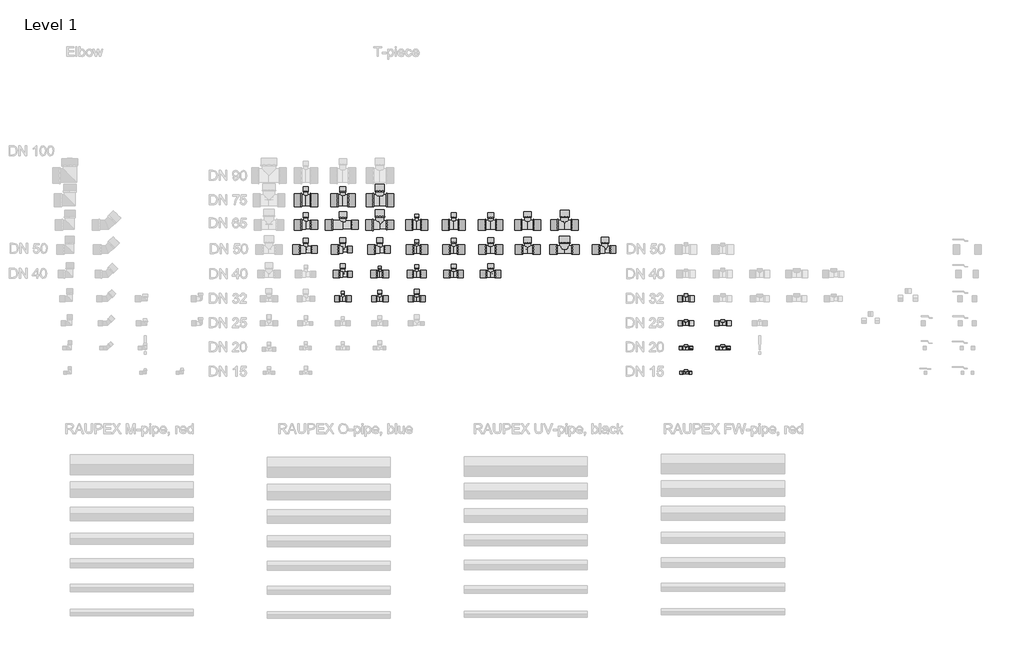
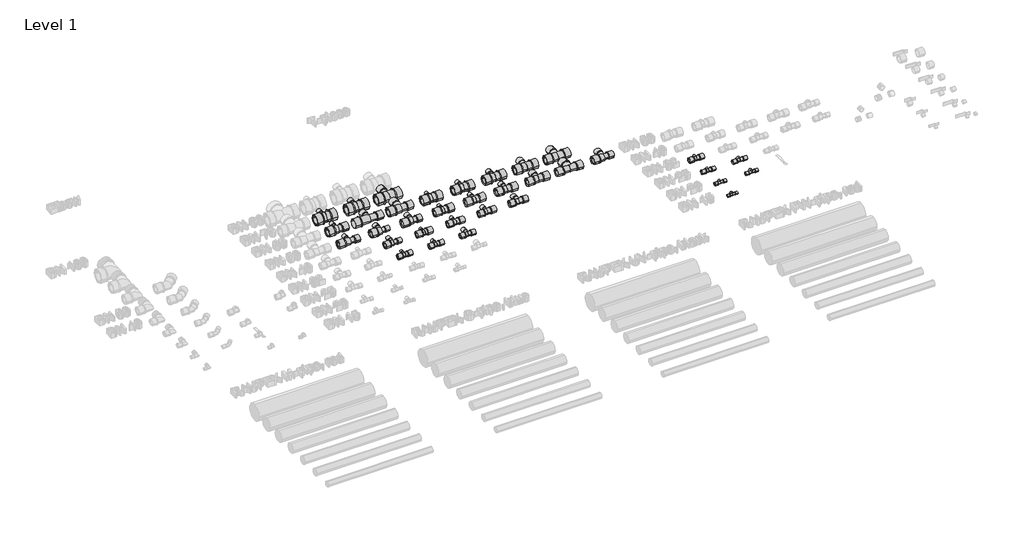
# One storey, part 5 of 16: 130 pipe fittings.
"""IFC4 building model written with IfcOpenShell, lengths in millimetres."""

from ifc_helpers import new_model, si_unit, origin, place, context, project, spatial, transform, mapped, element, save
from components import sleeve_lx_11_2e170aa1, sleeve_lx_11_3fcb8560, sleeve_lx_11_f19e3dbf, sleeve_lx_11_b9b419b6, sleeve_lx_11_e5eab1a7, sleeve_lx_11_ddfe2885, sleeve_lx_11_4a8bb2b2, sleeve_lx_11_a113959b, sleeve_lx_11_864eb6fe, sleeve_lx_11_c8be5d8f, sleeve_rx_11_7b1edd19, sleeve_rx_11_d7b6a074, t_piece_sdr11_lx_4c8c54f7, t_piece_sdr11_lx_63dd1f1d, t_piece_sdr11_lx_b9ecea4a, t_piece_sdr11_lx_dfdbaae2, t_piece_sdr11_lx_031e45e8, t_piece_sdr11_lx_8dcbc21c, t_piece_sdr11_lx_149c8f26, t_piece_sdr11_lx_bd781c14, t_piece_sdr11_lx_aa92336d, t_piece_sdr11_lx_82b26c80, t_piece_sdr11_lx_b870d911, t_piece_sdr11_lx_8f242d45, t_piece_sdr11_lx_a8b36c13, t_piece_sdr11_lx_51ccf36a, t_piece_sdr11_lx_7730ed08, t_piece_sdr11_lx_1707f27c, t_piece_sdr11_lx_t_piece_sdr11_rx_21ca84d2, t_piece_sdr11_lx_t_piece_sdr11_rx_c902879b, t_piece_sdr11_lx_t_piece_sdr11_rx_e4a54ba6, t_piece_sdr11_lx_t_piece_sdr11_rx_5d5b0444, t_piece_sdr11_lx_t_piece_sdr11_rx_ea6c35c2, t_piece_sdr11_lx_t_piece_sdr11_rx_5838618a, t_piece_sdr11_lx_t_piece_sdr11_rx_05f4d052, t_piece_sdr11_lx_t_piece_sdr11_rx_636d46ae, t_piece_sdr11_lx_t_piece_sdr11_rx_d9e8349e, t_piece_sdr11_lx_t_piece_sdr11_rx_7a841b34, t_piece_sdr11_lx_t_piece_sdr11_rx_10ffb44c, t_piece_sdr11_lx_t_piece_sdr11_rx_3943f51e, t_piece_sdr11_internal_thread_lx_8e1e4240, t_piece_sdr11_internal_thread_lx_d718ae2c, t_piece_sdr11_internal_thread_lx_568c0ff7, t_piece_sdr11_internal_thread_lx_c276f615, t_piece_sdr11_internal_thread_lx_835d7b5e, t_piece_sdr11_internal_thread_lx_253700b9

model = new_model("IFC4")

# Units and contexts
model_context = context("Model", 3, world=origin())
ifc_project = project(units=[si_unit("LENGTHUNIT", "METRE", prefix="MILLI")], contexts=[model_context])

# Site, building, storey
site = spatial("IfcSite", under=ifc_project)
building = spatial("IfcBuilding", under=site)
storey = spatial("IfcBuildingStorey", under=building, Name="Level 1", Elevation=0.0)

# Pipe fittings
placement = place(None, origin())
sleeve_lx_11_shape = sleeve_lx_11_2e170aa1(model_context)
element("IfcPipeFitting", 1, ObjectType="Sleeve : LX 11", at=placement, inside=storey, context=model_context, shape_type="MappedRepresentation", body=[
    mapped(sleeve_lx_11_shape, transform((19447.2141419, 840.5489138, 0.0), x_axis=(1.0, 0.0, 0.0), y_axis=(0.0, 1.0, 0.0), z_axis=(0.0, 0.0, 1.0))),
])
element("IfcPipeFitting", 2, ObjectType="Sleeve : LX 11", at=placement, inside=storey, context=model_context, shape_type="MappedRepresentation", body=[
    mapped(sleeve_lx_11_shape, transform((19743.9141419, 840.5489138, 0.0), x_axis=(1.0, 0.0, 0.0), y_axis=(0.0, 1.0, 0.0), z_axis=(0.0, 0.0, 1.0))),
])
element("IfcPipeFitting", 3, ObjectType="Sleeve : LX 11", at=placement, inside=storey, context=model_context, shape_type="MappedRepresentation", body=[
    mapped(sleeve_lx_11_shape, transform((16726.2141419, 1288.9489138, 0.0), x_axis=(0.0, 1.0, 0.0), y_axis=(-1.0, 0.0, 0.0), z_axis=(0.0, 0.0, 1.0))),
])
element("IfcPipeFitting", 4, ObjectType="Sleeve : LX 11", at=placement, inside=storey, context=model_context, shape_type="MappedRepresentation", body=[
    mapped(sleeve_lx_11_shape, transform((16426.2141419, 1495.5489138, 0.0), x_axis=(0.0, 1.0, 0.0), y_axis=(-1.0, 0.0, 0.0), z_axis=(0.0, 0.0, 1.0))),
])
element("IfcPipeFitting", 5, ObjectType="Sleeve : LX 11", at=placement, inside=storey, context=model_context, shape_type="MappedRepresentation", body=[
    mapped(sleeve_lx_11_shape, transform((16426.2141419, 1702.5489138, 0.0), x_axis=(0.0, 1.0, 0.0), y_axis=(-1.0, 0.0, 0.0), z_axis=(0.0, 0.0, 1.0))),
])
element("IfcPipeFitting", 6, ObjectType="Sleeve : LX 11", at=placement, inside=storey, context=model_context, shape_type="MappedRepresentation", body=[
    mapped(sleeve_lx_11_shape, transform((17326.2141419, 1082.5489138, 0.0), x_axis=(0.0, 1.0, 0.0), y_axis=(-1.0, 0.0, 0.0), z_axis=(0.0, 0.0, 1.0))),
])
element("IfcPipeFitting", 7, ObjectType="Sleeve : LX 11", at=placement, inside=storey, context=model_context, shape_type="MappedRepresentation", body=[
    mapped(sleeve_lx_11_shape, transform((17626.2141419, 1287.3489138, 0.0), x_axis=(0.0, 1.0, 0.0), y_axis=(-1.0, 0.0, 0.0), z_axis=(0.0, 0.0, 1.0))),
])
element("IfcPipeFitting", 8, ObjectType="Sleeve : LX 11", at=placement, inside=storey, context=model_context, shape_type="MappedRepresentation", body=[
    mapped(sleeve_lx_11_shape, transform((17626.2141419, 1497.5489138, 0.0), x_axis=(0.0, 1.0, 0.0), y_axis=(-1.0, 0.0, 0.0), z_axis=(0.0, 0.0, 1.0))),
])
element("IfcPipeFitting", 9, ObjectType="Sleeve : LX 11", at=placement, inside=storey, context=model_context, shape_type="MappedRepresentation", body=[
    mapped(sleeve_lx_11_shape, transform((17626.2141419, 1703.3489138, 0.0), x_axis=(0.0, 1.0, 0.0), y_axis=(-1.0, 0.0, 0.0), z_axis=(0.0, 0.0, 1.0))),
])
element("IfcPipeFitting", 10, ObjectType="Sleeve : LX 11", at=placement, inside=storey, context=model_context, shape_type="MappedRepresentation", body=[
    mapped(sleeve_lx_11_shape, transform((16426.2141419, 1913.0489138, 0.0), x_axis=(0.0, 1.0, 0.0), y_axis=(-1.0, 0.0, 0.0), z_axis=(0.0, 0.0, 1.0))),
])
sleeve_lx_11_2_shape = sleeve_lx_11_3fcb8560(model_context)
element("IfcPipeFitting", 11, ObjectType="Sleeve : LX 11", at=placement, inside=storey, context=model_context, shape_type="MappedRepresentation", body=[
    mapped(sleeve_lx_11_2_shape, transform((19463.2141419, 440.5489138, 0.0), x_axis=(1.0, 0.0, 0.0), y_axis=(0.0, 1.0, 0.0), z_axis=(0.0, 0.0, 1.0))),
])
element("IfcPipeFitting", 12, ObjectType="Sleeve : LX 11", at=placement, inside=storey, context=model_context, shape_type="MappedRepresentation", body=[
    mapped(sleeve_lx_11_2_shape, transform((16726.2141419, 1082.7489138, 0.0), x_axis=(0.0, 1.0, 0.0), y_axis=(-1.0, 0.0, 0.0), z_axis=(0.0, 0.0, 1.0))),
])
element("IfcPipeFitting", 13, ObjectType="Sleeve : LX 11", at=placement, inside=storey, context=model_context, shape_type="MappedRepresentation", body=[
    mapped(sleeve_lx_11_2_shape, transform((17026.2141419, 1286.3489138, 0.0), x_axis=(0.0, 1.0, 0.0), y_axis=(-1.0, 0.0, 0.0), z_axis=(0.0, 0.0, 1.0))),
])
sleeve_lx_11_3_shape = sleeve_lx_11_f19e3dbf(model_context)
element("IfcPipeFitting", 14, ObjectType="Sleeve : LX 11", at=placement, inside=storey, context=model_context, shape_type="MappedRepresentation", body=[
    mapped(sleeve_lx_11_3_shape, transform((19456.2141419, 640.5489138, 0.0), x_axis=(1.0, 0.0, 0.0), y_axis=(0.0, 1.0, 0.0), z_axis=(0.0, 0.0, 1.0))),
])
element("IfcPipeFitting", 15, ObjectType="Sleeve : LX 11", at=placement, inside=storey, context=model_context, shape_type="MappedRepresentation", body=[
    mapped(sleeve_lx_11_3_shape, transform((19752.9141419, 640.5489138, 0.0), x_axis=(1.0, 0.0, 0.0), y_axis=(0.0, 1.0, 0.0), z_axis=(0.0, 0.0, 1.0))),
])
element("IfcPipeFitting", 16, ObjectType="Sleeve : LX 11", at=placement, inside=storey, context=model_context, shape_type="MappedRepresentation", body=[
    mapped(sleeve_lx_11_3_shape, transform((17026.2141419, 1081.0489138, 0.0), x_axis=(0.0, 1.0, 0.0), y_axis=(-1.0, 0.0, 0.0), z_axis=(0.0, 0.0, 1.0))),
])
element("IfcPipeFitting", 17, ObjectType="Sleeve : LX 11", at=placement, inside=storey, context=model_context, shape_type="MappedRepresentation", body=[
    mapped(sleeve_lx_11_3_shape, transform((17326.2141419, 1287.8489138, 0.0), x_axis=(0.0, 1.0, 0.0), y_axis=(-1.0, 0.0, 0.0), z_axis=(0.0, 0.0, 1.0))),
])
element("IfcPipeFitting", 18, ObjectType="Sleeve : LX 11", at=placement, inside=storey, context=model_context, shape_type="MappedRepresentation", body=[
    mapped(sleeve_lx_11_3_shape, transform((17326.2141419, 1493.7489138, 0.0), x_axis=(0.0, 1.0, 0.0), y_axis=(-1.0, 0.0, 0.0), z_axis=(0.0, 0.0, 1.0))),
])
element("IfcPipeFitting", 19, ObjectType="Sleeve : LX 11", at=placement, inside=storey, context=model_context, shape_type="MappedRepresentation", body=[
    mapped(sleeve_lx_11_3_shape, transform((17326.2141419, 1701.5489138, 0.0), x_axis=(0.0, 1.0, 0.0), y_axis=(-1.0, 0.0, 0.0), z_axis=(0.0, 0.0, 1.0))),
])
sleeve_lx_11_4_shape = sleeve_lx_11_b9b419b6(model_context)
element("IfcPipeFitting", 20, ObjectType="Sleeve : LX 11", at=placement, inside=storey, context=model_context, shape_type="MappedRepresentation", body=[
    mapped(sleeve_lx_11_4_shape, transform((19443.2141419, 1040.5489138, 0.0), x_axis=(1.0, 0.0, 0.0), y_axis=(0.0, 1.0, 0.0), z_axis=(0.0, 0.0, 1.0))),
])
element("IfcPipeFitting", 21, ObjectType="Sleeve : LX 11", at=placement, inside=storey, context=model_context, shape_type="MappedRepresentation", body=[
    mapped(sleeve_lx_11_4_shape, transform((16767.3141419, 1240.5489138, 0.0), x_axis=(1.0, 0.0, 0.0), y_axis=(0.0, 1.0, 0.0), z_axis=(0.0, 0.0, 1.0))),
])
element("IfcPipeFitting", 22, ObjectType="Sleeve : LX 11", at=placement, inside=storey, context=model_context, shape_type="MappedRepresentation", body=[
    mapped(sleeve_lx_11_4_shape, transform((16726.2141419, 1497.0489138, 0.0), x_axis=(0.0, 1.0, 0.0), y_axis=(-1.0, 0.0, 0.0), z_axis=(0.0, 0.0, 1.0))),
])
element("IfcPipeFitting", 23, ObjectType="Sleeve : LX 11", at=placement, inside=storey, context=model_context, shape_type="MappedRepresentation", body=[
    mapped(sleeve_lx_11_4_shape, transform((16767.3141419, 1440.5489138, 0.0), x_axis=(1.0, 0.0, 0.0), y_axis=(0.0, 1.0, 0.0), z_axis=(0.0, 0.0, 1.0))),
])
element("IfcPipeFitting", 24, ObjectType="Sleeve : LX 11", at=placement, inside=storey, context=model_context, shape_type="MappedRepresentation", body=[
    mapped(sleeve_lx_11_4_shape, transform((17026.2141419, 1497.0489138, 0.0), x_axis=(0.0, 1.0, 0.0), y_axis=(-1.0, 0.0, 0.0), z_axis=(0.0, 0.0, 1.0))),
])
element("IfcPipeFitting", 25, ObjectType="Sleeve : LX 11", at=placement, inside=storey, context=model_context, shape_type="MappedRepresentation", body=[
    mapped(sleeve_lx_11_4_shape, transform((16659.0141419, 1040.5489138, 0.0), x_axis=(1.0, 0.0, 0.0), y_axis=(0.0, 1.0, 0.0), z_axis=(0.0, 0.0, 1.0))),
])
element("IfcPipeFitting", 26, ObjectType="Sleeve : LX 11", at=placement, inside=storey, context=model_context, shape_type="MappedRepresentation", body=[
    mapped(sleeve_lx_11_4_shape, transform((16756.4141419, 1040.5489138, 0.0), x_axis=(1.0, 0.0, 0.0), y_axis=(0.0, 1.0, 0.0), z_axis=(0.0, 0.0, 1.0))),
])
element("IfcPipeFitting", 27, ObjectType="Sleeve : LX 11", at=placement, inside=storey, context=model_context, shape_type="MappedRepresentation", body=[
    mapped(sleeve_lx_11_4_shape, transform((16959.4141419, 1040.5489138, 0.0), x_axis=(1.0, 0.0, 0.0), y_axis=(0.0, 1.0, 0.0), z_axis=(0.0, 0.0, 1.0))),
])
element("IfcPipeFitting", 28, ObjectType="Sleeve : LX 11", at=placement, inside=storey, context=model_context, shape_type="MappedRepresentation", body=[
    mapped(sleeve_lx_11_4_shape, transform((17056.0141419, 1040.5489138, 0.0), x_axis=(1.0, 0.0, 0.0), y_axis=(0.0, 1.0, 0.0), z_axis=(0.0, 0.0, 1.0))),
])
element("IfcPipeFitting", 29, ObjectType="Sleeve : LX 11", at=placement, inside=storey, context=model_context, shape_type="MappedRepresentation", body=[
    mapped(sleeve_lx_11_4_shape, transform((17257.4141419, 1040.5489138, 0.0), x_axis=(1.0, 0.0, 0.0), y_axis=(0.0, 1.0, 0.0), z_axis=(0.0, 0.0, 1.0))),
])
element("IfcPipeFitting", 30, ObjectType="Sleeve : LX 11", at=placement, inside=storey, context=model_context, shape_type="MappedRepresentation", body=[
    mapped(sleeve_lx_11_4_shape, transform((17358.0141419, 1040.5489138, 0.0), x_axis=(1.0, 0.0, 0.0), y_axis=(0.0, 1.0, 0.0), z_axis=(0.0, 0.0, 1.0))),
])
element("IfcPipeFitting", 31, ObjectType="Sleeve : LX 11", at=placement, inside=storey, context=model_context, shape_type="MappedRepresentation", body=[
    mapped(sleeve_lx_11_4_shape, transform((17926.2141419, 1289.5489138, 0.0), x_axis=(0.0, 1.0, 0.0), y_axis=(-1.0, 0.0, 0.0), z_axis=(0.0, 0.0, 1.0))),
])
element("IfcPipeFitting", 32, ObjectType="Sleeve : LX 11", at=placement, inside=storey, context=model_context, shape_type="MappedRepresentation", body=[
    mapped(sleeve_lx_11_4_shape, transform((17926.2141419, 1497.0489138, 0.0), x_axis=(0.0, 1.0, 0.0), y_axis=(-1.0, 0.0, 0.0), z_axis=(0.0, 0.0, 1.0))),
])
element("IfcPipeFitting", 33, ObjectType="Sleeve : LX 11", at=placement, inside=storey, context=model_context, shape_type="MappedRepresentation", body=[
    mapped(sleeve_lx_11_4_shape, transform((17926.2141419, 1702.9489138, 0.0), x_axis=(0.0, 1.0, 0.0), y_axis=(-1.0, 0.0, 0.0), z_axis=(0.0, 0.0, 1.0))),
])
element("IfcPipeFitting", 34, ObjectType="Sleeve : LX 11", at=placement, inside=storey, context=model_context, shape_type="MappedRepresentation", body=[
    mapped(sleeve_lx_11_4_shape, transform((16726.2141419, 1912.0489138, 0.0), x_axis=(0.0, 1.0, 0.0), y_axis=(-1.0, 0.0, 0.0), z_axis=(0.0, 0.0, 1.0))),
])
sleeve_lx_11_5_shape = sleeve_lx_11_e5eab1a7(model_context)
element("IfcPipeFitting", 35, ObjectType="Sleeve : LX 11", at=placement, inside=storey, context=model_context, shape_type="MappedRepresentation", body=[
    mapped(sleeve_lx_11_5_shape, transform((16649.9141419, 1240.5489138, 0.0), x_axis=(1.0, 0.0, 0.0), y_axis=(0.0, 1.0, 0.0), z_axis=(0.0, 0.0, 1.0))),
])
element("IfcPipeFitting", 36, ObjectType="Sleeve : LX 11", at=placement, inside=storey, context=model_context, shape_type="MappedRepresentation", body=[
    mapped(sleeve_lx_11_5_shape, transform((16474.8141419, 1440.5489138, 0.0), x_axis=(1.0, 0.0, 0.0), y_axis=(0.0, 1.0, 0.0), z_axis=(0.0, 0.0, 1.0))),
])
element("IfcPipeFitting", 37, ObjectType="Sleeve : LX 11", at=placement, inside=storey, context=model_context, shape_type="MappedRepresentation", body=[
    mapped(sleeve_lx_11_5_shape, transform((17067.4141419, 1440.5489138, 0.0), x_axis=(1.0, 0.0, 0.0), y_axis=(0.0, 1.0, 0.0), z_axis=(0.0, 0.0, 1.0))),
])
element("IfcPipeFitting", 38, ObjectType="Sleeve : LX 11", at=placement, inside=storey, context=model_context, shape_type="MappedRepresentation", body=[
    mapped(sleeve_lx_11_5_shape, transform((16726.2141419, 1701.4489138, 0.0), x_axis=(0.0, 1.0, 0.0), y_axis=(-1.0, 0.0, 0.0), z_axis=(0.0, 0.0, 1.0))),
])
element("IfcPipeFitting", 39, ObjectType="Sleeve : LX 11", at=placement, inside=storey, context=model_context, shape_type="MappedRepresentation", body=[
    mapped(sleeve_lx_11_5_shape, transform((16954.4141419, 1240.5489138, 0.0), x_axis=(1.0, 0.0, 0.0), y_axis=(0.0, 1.0, 0.0), z_axis=(0.0, 0.0, 1.0))),
])
element("IfcPipeFitting", 40, ObjectType="Sleeve : LX 11", at=placement, inside=storey, context=model_context, shape_type="MappedRepresentation", body=[
    mapped(sleeve_lx_11_5_shape, transform((17054.0141419, 1240.5489138, 0.0), x_axis=(1.0, 0.0, 0.0), y_axis=(0.0, 1.0, 0.0), z_axis=(0.0, 0.0, 1.0))),
])
element("IfcPipeFitting", 41, ObjectType="Sleeve : LX 11", at=placement, inside=storey, context=model_context, shape_type="MappedRepresentation", body=[
    mapped(sleeve_lx_11_5_shape, transform((17248.8141419, 1240.5489138, 0.0), x_axis=(1.0, 0.0, 0.0), y_axis=(0.0, 1.0, 0.0), z_axis=(0.0, 0.0, 1.0))),
])
element("IfcPipeFitting", 42, ObjectType="Sleeve : LX 11", at=placement, inside=storey, context=model_context, shape_type="MappedRepresentation", body=[
    mapped(sleeve_lx_11_5_shape, transform((17359.6141419, 1240.5489138, 0.0), x_axis=(1.0, 0.0, 0.0), y_axis=(0.0, 1.0, 0.0), z_axis=(0.0, 0.0, 1.0))),
])
element("IfcPipeFitting", 43, ObjectType="Sleeve : LX 11", at=placement, inside=storey, context=model_context, shape_type="MappedRepresentation", body=[
    mapped(sleeve_lx_11_5_shape, transform((17547.0141419, 1240.5489138, 0.0), x_axis=(1.0, 0.0, 0.0), y_axis=(0.0, 1.0, 0.0), z_axis=(0.0, 0.0, 1.0))),
])
element("IfcPipeFitting", 44, ObjectType="Sleeve : LX 11", at=placement, inside=storey, context=model_context, shape_type="MappedRepresentation", body=[
    mapped(sleeve_lx_11_5_shape, transform((17661.4141419, 1240.5489138, 0.0), x_axis=(1.0, 0.0, 0.0), y_axis=(0.0, 1.0, 0.0), z_axis=(0.0, 0.0, 1.0))),
])
element("IfcPipeFitting", 45, ObjectType="Sleeve : LX 11", at=placement, inside=storey, context=model_context, shape_type="MappedRepresentation", body=[
    mapped(sleeve_lx_11_5_shape, transform((17842.4141419, 1240.5489138, 0.0), x_axis=(1.0, 0.0, 0.0), y_axis=(0.0, 1.0, 0.0), z_axis=(0.0, 0.0, 1.0))),
])
element("IfcPipeFitting", 46, ObjectType="Sleeve : LX 11", at=placement, inside=storey, context=model_context, shape_type="MappedRepresentation", body=[
    mapped(sleeve_lx_11_5_shape, transform((17966.0141419, 1240.5489138, 0.0), x_axis=(1.0, 0.0, 0.0), y_axis=(0.0, 1.0, 0.0), z_axis=(0.0, 0.0, 1.0))),
])
element("IfcPipeFitting", 47, ObjectType="Sleeve : LX 11", at=placement, inside=storey, context=model_context, shape_type="MappedRepresentation", body=[
    mapped(sleeve_lx_11_5_shape, transform((18226.2141419, 1497.0489138, 0.0), x_axis=(0.0, 1.0, 0.0), y_axis=(-1.0, 0.0, 0.0), z_axis=(0.0, 0.0, 1.0))),
])
element("IfcPipeFitting", 48, ObjectType="Sleeve : LX 11", at=placement, inside=storey, context=model_context, shape_type="MappedRepresentation", body=[
    mapped(sleeve_lx_11_5_shape, transform((18226.2141419, 1704.5489138, 0.0), x_axis=(0.0, 1.0, 0.0), y_axis=(-1.0, 0.0, 0.0), z_axis=(0.0, 0.0, 1.0))),
])
element("IfcPipeFitting", 49, ObjectType="Sleeve : LX 11", at=placement, inside=storey, context=model_context, shape_type="MappedRepresentation", body=[
    mapped(sleeve_lx_11_5_shape, transform((18853.3151183, 1497.0489138, 0.0), x_axis=(0.0, 1.0, 0.0), y_axis=(-1.0, 0.0, 0.0), z_axis=(0.0, 0.0, 1.0))),
])
element("IfcPipeFitting", 50, ObjectType="Sleeve : LX 11", at=placement, inside=storey, context=model_context, shape_type="MappedRepresentation", body=[
    mapped(sleeve_lx_11_5_shape, transform((18899.1151183, 1440.5489138, 0.0), x_axis=(1.0, 0.0, 0.0), y_axis=(0.0, 1.0, 0.0), z_axis=(0.0, 0.0, 1.0))),
])
sleeve_lx_11_6_shape = sleeve_lx_11_ddfe2885(model_context)
element("IfcPipeFitting", 51, ObjectType="Sleeve : LX 11", at=placement, inside=storey, context=model_context, shape_type="MappedRepresentation", body=[
    mapped(sleeve_lx_11_6_shape, transform((16320.2141419, 1440.5489138, 0.0), x_axis=(1.0, 0.0, 0.0), y_axis=(0.0, 1.0, 0.0), z_axis=(0.0, 0.0, 1.0))),
])
element("IfcPipeFitting", 52, ObjectType="Sleeve : LX 11", at=placement, inside=storey, context=model_context, shape_type="MappedRepresentation", body=[
    mapped(sleeve_lx_11_6_shape, transform((16629.9141419, 1440.5489138, 0.0), x_axis=(1.0, 0.0, 0.0), y_axis=(0.0, 1.0, 0.0), z_axis=(0.0, 0.0, 1.0))),
])
element("IfcPipeFitting", 53, ObjectType="Sleeve : LX 11", at=placement, inside=storey, context=model_context, shape_type="MappedRepresentation", body=[
    mapped(sleeve_lx_11_6_shape, transform((16929.9141419, 1440.5489138, 0.0), x_axis=(1.0, 0.0, 0.0), y_axis=(0.0, 1.0, 0.0), z_axis=(0.0, 0.0, 1.0))),
])
element("IfcPipeFitting", 54, ObjectType="Sleeve : LX 11", at=placement, inside=storey, context=model_context, shape_type="MappedRepresentation", body=[
    mapped(sleeve_lx_11_6_shape, transform((16467.7141419, 1640.5489138, 0.0), x_axis=(1.0, 0.0, 0.0), y_axis=(0.0, 1.0, 0.0), z_axis=(0.0, 0.0, 1.0))),
])
element("IfcPipeFitting", 55, ObjectType="Sleeve : LX 11", at=placement, inside=storey, context=model_context, shape_type="MappedRepresentation", body=[
    mapped(sleeve_lx_11_6_shape, transform((16800.0141419, 1640.5489138, 0.0), x_axis=(1.0, 0.0, 0.0), y_axis=(0.0, 1.0, 0.0), z_axis=(0.0, 0.0, 1.0))),
])
element("IfcPipeFitting", 56, ObjectType="Sleeve : LX 11", at=placement, inside=storey, context=model_context, shape_type="MappedRepresentation", body=[
    mapped(sleeve_lx_11_6_shape, transform((17026.2141419, 1708.7489138, 0.0), x_axis=(0.0, 1.0, 0.0), y_axis=(-1.0, 0.0, 0.0), z_axis=(0.0, 0.0, 1.0))),
])
element("IfcPipeFitting", 57, ObjectType="Sleeve : LX 11", at=placement, inside=storey, context=model_context, shape_type="MappedRepresentation", body=[
    mapped(sleeve_lx_11_6_shape, transform((17086.1141419, 1640.5489138, 0.0), x_axis=(1.0, 0.0, 0.0), y_axis=(0.0, 1.0, 0.0), z_axis=(0.0, 0.0, 1.0))),
])
element("IfcPipeFitting", 58, ObjectType="Sleeve : LX 11", at=placement, inside=storey, context=model_context, shape_type="MappedRepresentation", body=[
    mapped(sleeve_lx_11_6_shape, transform((17238.9141419, 1440.5489138, 0.0), x_axis=(1.0, 0.0, 0.0), y_axis=(0.0, 1.0, 0.0), z_axis=(0.0, 0.0, 1.0))),
])
element("IfcPipeFitting", 59, ObjectType="Sleeve : LX 11", at=placement, inside=storey, context=model_context, shape_type="MappedRepresentation", body=[
    mapped(sleeve_lx_11_6_shape, transform((17360.5141419, 1440.5489138, 0.0), x_axis=(1.0, 0.0, 0.0), y_axis=(0.0, 1.0, 0.0), z_axis=(0.0, 0.0, 1.0))),
])
element("IfcPipeFitting", 60, ObjectType="Sleeve : LX 11", at=placement, inside=storey, context=model_context, shape_type="MappedRepresentation", body=[
    mapped(sleeve_lx_11_6_shape, transform((17536.4141419, 1440.5489138, 0.0), x_axis=(1.0, 0.0, 0.0), y_axis=(0.0, 1.0, 0.0), z_axis=(0.0, 0.0, 1.0))),
])
element("IfcPipeFitting", 61, ObjectType="Sleeve : LX 11", at=placement, inside=storey, context=model_context, shape_type="MappedRepresentation", body=[
    mapped(sleeve_lx_11_6_shape, transform((17663.0141419, 1440.5489138, 0.0), x_axis=(1.0, 0.0, 0.0), y_axis=(0.0, 1.0, 0.0), z_axis=(0.0, 0.0, 1.0))),
])
element("IfcPipeFitting", 62, ObjectType="Sleeve : LX 11", at=placement, inside=storey, context=model_context, shape_type="MappedRepresentation", body=[
    mapped(sleeve_lx_11_6_shape, transform((17829.9141419, 1440.5489138, 0.0), x_axis=(1.0, 0.0, 0.0), y_axis=(0.0, 1.0, 0.0), z_axis=(0.0, 0.0, 1.0))),
])
element("IfcPipeFitting", 63, ObjectType="Sleeve : LX 11", at=placement, inside=storey, context=model_context, shape_type="MappedRepresentation", body=[
    mapped(sleeve_lx_11_6_shape, transform((17969.5141419, 1440.5489138, 0.0), x_axis=(1.0, 0.0, 0.0), y_axis=(0.0, 1.0, 0.0), z_axis=(0.0, 0.0, 1.0))),
])
element("IfcPipeFitting", 64, ObjectType="Sleeve : LX 11", at=placement, inside=storey, context=model_context, shape_type="MappedRepresentation", body=[
    mapped(sleeve_lx_11_6_shape, transform((18123.9141419, 1440.5489138, 0.0), x_axis=(1.0, 0.0, 0.0), y_axis=(0.0, 1.0, 0.0), z_axis=(0.0, 0.0, 1.0))),
])
element("IfcPipeFitting", 65, ObjectType="Sleeve : LX 11", at=placement, inside=storey, context=model_context, shape_type="MappedRepresentation", body=[
    mapped(sleeve_lx_11_6_shape, transform((18275.5141419, 1440.5489138, 0.0), x_axis=(1.0, 0.0, 0.0), y_axis=(0.0, 1.0, 0.0), z_axis=(0.0, 0.0, 1.0))),
])
element("IfcPipeFitting", 66, ObjectType="Sleeve : LX 11", at=placement, inside=storey, context=model_context, shape_type="MappedRepresentation", body=[
    mapped(sleeve_lx_11_6_shape, transform((18526.2141419, 1707.0489138, 0.0), x_axis=(0.0, 1.0, 0.0), y_axis=(-1.0, 0.0, 0.0), z_axis=(0.0, 0.0, 1.0))),
])
element("IfcPipeFitting", 67, ObjectType="Sleeve : LX 11", at=placement, inside=storey, context=model_context, shape_type="MappedRepresentation", body=[
    mapped(sleeve_lx_11_6_shape, transform((17026.2141419, 1915.6489138, 0.0), x_axis=(0.0, 1.0, 0.0), y_axis=(-1.0, 0.0, 0.0), z_axis=(0.0, 0.0, 1.0))),
])
element("IfcPipeFitting", 68, ObjectType="Sleeve : LX 11", at=placement, inside=storey, context=model_context, shape_type="MappedRepresentation", body=[
    mapped(sleeve_lx_11_6_shape, transform((18406.2141419, 1440.5489138, 0.0), x_axis=(1.0, 0.0, 0.0), y_axis=(0.0, 1.0, 0.0), z_axis=(0.0, 0.0, 1.0))),
])
element("IfcPipeFitting", 69, ObjectType="Sleeve : LX 11", at=placement, inside=storey, context=model_context, shape_type="MappedRepresentation", body=[
    mapped(sleeve_lx_11_6_shape, transform((18593.2141419, 1440.5489138, 0.0), x_axis=(1.0, 0.0, 0.0), y_axis=(0.0, 1.0, 0.0), z_axis=(0.0, 0.0, 1.0))),
])
element("IfcPipeFitting", 70, ObjectType="Sleeve : LX 11", at=placement, inside=storey, context=model_context, shape_type="MappedRepresentation", body=[
    mapped(sleeve_lx_11_6_shape, transform((18751.0151183, 1440.5489138, 0.0), x_axis=(1.0, 0.0, 0.0), y_axis=(0.0, 1.0, 0.0), z_axis=(0.0, 0.0, 1.0))),
])
sleeve_lx_11_7_shape = sleeve_lx_11_4a8bb2b2(model_context)
element("IfcPipeFitting", 71, ObjectType="Sleeve : LX 11", at=placement, inside=storey, context=model_context, shape_type="MappedRepresentation", body=[
    mapped(sleeve_lx_11_7_shape, transform((19575.2141419, 840.5489138, 0.0), x_axis=(-1.0, 0.0, 0.0), y_axis=(0.0, -1.0, 0.0), z_axis=(0.0, 0.0, 1.0))),
])
element("IfcPipeFitting", 72, ObjectType="Sleeve : LX 11", at=placement, inside=storey, context=model_context, shape_type="MappedRepresentation", body=[
    mapped(sleeve_lx_11_7_shape, transform((19878.5141419, 840.5489138, 0.0), x_axis=(-1.0, 0.0, 0.0), y_axis=(0.0, -1.0, 0.0), z_axis=(0.0, 0.0, 1.0))),
])
sleeve_lx_11_8_shape = sleeve_lx_11_a113959b(model_context)
element("IfcPipeFitting", 73, ObjectType="Sleeve : LX 11", at=placement, inside=storey, context=model_context, shape_type="MappedRepresentation", body=[
    mapped(sleeve_lx_11_8_shape, transform((19579.2141419, 1040.5489138, 0.0), x_axis=(-1.0, 0.0, 0.0), y_axis=(0.0, -1.0, 0.0), z_axis=(0.0, 0.0, 1.0))),
])
sleeve_lx_11_9_shape = sleeve_lx_11_864eb6fe(model_context)
element("IfcPipeFitting", 74, ObjectType="Sleeve : LX 11", at=placement, inside=storey, context=model_context, shape_type="MappedRepresentation", body=[
    mapped(sleeve_lx_11_9_shape, transform((19559.2141419, 440.5489138, 0.0), x_axis=(-1.0, 0.0, 0.0), y_axis=(0.0, -1.0, 0.0), z_axis=(0.0, 0.0, 1.0))),
])
sleeve_lx_11_10_shape = sleeve_lx_11_c8be5d8f(model_context)
element("IfcPipeFitting", 75, ObjectType="Sleeve : LX 11", at=placement, inside=storey, context=model_context, shape_type="MappedRepresentation", body=[
    mapped(sleeve_lx_11_10_shape, transform((19566.2141419, 640.5489138, 0.0), x_axis=(-1.0, 0.0, 0.0), y_axis=(0.0, -1.0, 0.0), z_axis=(0.0, 0.0, 1.0))),
])
element("IfcPipeFitting", 76, ObjectType="Sleeve : LX 11", at=placement, inside=storey, context=model_context, shape_type="MappedRepresentation", body=[
    mapped(sleeve_lx_11_10_shape, transform((19869.5141419, 640.5489138, 0.0), x_axis=(-1.0, 0.0, 0.0), y_axis=(0.0, -1.0, 0.0), z_axis=(0.0, 0.0, 1.0))),
])
sleeve_rx_11_shape = sleeve_rx_11_7b1edd19(model_context)
element("IfcPipeFitting", 77, ObjectType="Sleeve : RX 11", at=placement, inside=storey, context=model_context, shape_type="MappedRepresentation", body=[
    mapped(sleeve_rx_11_shape, transform((16332.2141419, 1840.5489138, 0.0), x_axis=(1.0, 0.0, 0.0), y_axis=(0.0, 1.0, 0.0), z_axis=(0.0, 0.0, 1.0))),
])
element("IfcPipeFitting", 78, ObjectType="Sleeve : RX 11", at=placement, inside=storey, context=model_context, shape_type="MappedRepresentation", body=[
    mapped(sleeve_rx_11_shape, transform((16467.2141419, 1840.5489138, 0.0), x_axis=(1.0, 0.0, 0.0), y_axis=(0.0, 1.0, 0.0), z_axis=(0.0, 0.0, 1.0))),
])
element("IfcPipeFitting", 79, ObjectType="Sleeve : RX 11", at=placement, inside=storey, context=model_context, shape_type="MappedRepresentation", body=[
    mapped(sleeve_rx_11_shape, transform((16627.3141419, 1840.5489138, 0.0), x_axis=(1.0, 0.0, 0.0), y_axis=(0.0, 1.0, 0.0), z_axis=(0.0, 0.0, 1.0))),
])
element("IfcPipeFitting", 80, ObjectType="Sleeve : RX 11", at=placement, inside=storey, context=model_context, shape_type="MappedRepresentation", body=[
    mapped(sleeve_rx_11_shape, transform((16772.1141419, 1840.5489138, 0.0), x_axis=(1.0, 0.0, 0.0), y_axis=(0.0, 1.0, 0.0), z_axis=(0.0, 0.0, 1.0))),
])
element("IfcPipeFitting", 81, ObjectType="Sleeve : RX 11", at=placement, inside=storey, context=model_context, shape_type="MappedRepresentation", body=[
    mapped(sleeve_rx_11_shape, transform((16914.4141419, 1840.5489138, 0.0), x_axis=(1.0, 0.0, 0.0), y_axis=(0.0, 1.0, 0.0), z_axis=(0.0, 0.0, 1.0))),
])
element("IfcPipeFitting", 82, ObjectType="Sleeve : RX 11", at=placement, inside=storey, context=model_context, shape_type="MappedRepresentation", body=[
    mapped(sleeve_rx_11_shape, transform((17085.0141419, 1840.5489138, 0.0), x_axis=(1.0, 0.0, 0.0), y_axis=(0.0, 1.0, 0.0), z_axis=(0.0, 0.0, 1.0))),
])
sleeve_rx_11_2_shape = sleeve_rx_11_d7b6a074(model_context)
element("IfcPipeFitting", 83, ObjectType="Sleeve : RX 11", at=placement, inside=storey, context=model_context, shape_type="MappedRepresentation", body=[
    mapped(sleeve_rx_11_2_shape, transform((16331.3141419, 1640.5489138, 0.0), x_axis=(1.0, 0.0, 0.0), y_axis=(0.0, 1.0, 0.0), z_axis=(0.0, 0.0, 1.0))),
])
element("IfcPipeFitting", 84, ObjectType="Sleeve : RX 11", at=placement, inside=storey, context=model_context, shape_type="MappedRepresentation", body=[
    mapped(sleeve_rx_11_2_shape, transform((16583.4141419, 1640.5489138, 0.0), x_axis=(1.0, 0.0, 0.0), y_axis=(0.0, 1.0, 0.0), z_axis=(0.0, 0.0, 1.0))),
])
element("IfcPipeFitting", 85, ObjectType="Sleeve : RX 11", at=placement, inside=storey, context=model_context, shape_type="MappedRepresentation", body=[
    mapped(sleeve_rx_11_2_shape, transform((16912.8141419, 1640.5489138, 0.0), x_axis=(1.0, 0.0, 0.0), y_axis=(0.0, 1.0, 0.0), z_axis=(0.0, 0.0, 1.0))),
])
element("IfcPipeFitting", 86, ObjectType="Sleeve : RX 11", at=placement, inside=storey, context=model_context, shape_type="MappedRepresentation", body=[
    mapped(sleeve_rx_11_2_shape, transform((17236.1141419, 1640.5489138, 0.0), x_axis=(1.0, 0.0, 0.0), y_axis=(0.0, 1.0, 0.0), z_axis=(0.0, 0.0, 1.0))),
])
element("IfcPipeFitting", 87, ObjectType="Sleeve : RX 11", at=placement, inside=storey, context=model_context, shape_type="MappedRepresentation", body=[
    mapped(sleeve_rx_11_2_shape, transform((17363.3141419, 1640.5489138, 0.0), x_axis=(1.0, 0.0, 0.0), y_axis=(0.0, 1.0, 0.0), z_axis=(0.0, 0.0, 1.0))),
])
element("IfcPipeFitting", 88, ObjectType="Sleeve : RX 11", at=placement, inside=storey, context=model_context, shape_type="MappedRepresentation", body=[
    mapped(sleeve_rx_11_2_shape, transform((17531.2141419, 1640.5489138, 0.0), x_axis=(1.0, 0.0, 0.0), y_axis=(0.0, 1.0, 0.0), z_axis=(0.0, 0.0, 1.0))),
])
element("IfcPipeFitting", 89, ObjectType="Sleeve : RX 11", at=placement, inside=storey, context=model_context, shape_type="MappedRepresentation", body=[
    mapped(sleeve_rx_11_2_shape, transform((17668.2141419, 1640.5489138, 0.0), x_axis=(1.0, 0.0, 0.0), y_axis=(0.0, 1.0, 0.0), z_axis=(0.0, 0.0, 1.0))),
])
element("IfcPipeFitting", 90, ObjectType="Sleeve : RX 11", at=placement, inside=storey, context=model_context, shape_type="MappedRepresentation", body=[
    mapped(sleeve_rx_11_2_shape, transform((17827.2141419, 1640.5489138, 0.0), x_axis=(1.0, 0.0, 0.0), y_axis=(0.0, 1.0, 0.0), z_axis=(0.0, 0.0, 1.0))),
])
element("IfcPipeFitting", 91, ObjectType="Sleeve : RX 11", at=placement, inside=storey, context=model_context, shape_type="MappedRepresentation", body=[
    mapped(sleeve_rx_11_2_shape, transform((17972.2141419, 1640.5489138, 0.0), x_axis=(1.0, 0.0, 0.0), y_axis=(0.0, 1.0, 0.0), z_axis=(0.0, 0.0, 1.0))),
])
element("IfcPipeFitting", 92, ObjectType="Sleeve : RX 11", at=placement, inside=storey, context=model_context, shape_type="MappedRepresentation", body=[
    mapped(sleeve_rx_11_2_shape, transform((18121.5141419, 1640.5489138, 0.0), x_axis=(1.0, 0.0, 0.0), y_axis=(0.0, 1.0, 0.0), z_axis=(0.0, 0.0, 1.0))),
])
element("IfcPipeFitting", 93, ObjectType="Sleeve : RX 11", at=placement, inside=storey, context=model_context, shape_type="MappedRepresentation", body=[
    mapped(sleeve_rx_11_2_shape, transform((18277.9141419, 1640.5489138, 0.0), x_axis=(1.0, 0.0, 0.0), y_axis=(0.0, 1.0, 0.0), z_axis=(0.0, 0.0, 1.0))),
])
element("IfcPipeFitting", 94, ObjectType="Sleeve : RX 11", at=placement, inside=storey, context=model_context, shape_type="MappedRepresentation", body=[
    mapped(sleeve_rx_11_2_shape, transform((18414.3141419, 1640.5489138, 0.0), x_axis=(1.0, 0.0, 0.0), y_axis=(0.0, 1.0, 0.0), z_axis=(0.0, 0.0, 1.0))),
])
element("IfcPipeFitting", 95, ObjectType="Sleeve : RX 11", at=placement, inside=storey, context=model_context, shape_type="MappedRepresentation", body=[
    mapped(sleeve_rx_11_2_shape, transform((18585.1141419, 1640.5489138, 0.0), x_axis=(1.0, 0.0, 0.0), y_axis=(0.0, 1.0, 0.0), z_axis=(0.0, 0.0, 1.0))),
])
element("IfcPipeFitting", 96, ObjectType="Sleeve : RX 11", at=placement, inside=storey, context=model_context, shape_type="MappedRepresentation", body=[
    mapped(sleeve_rx_11_2_shape, transform((18526.2141419, 1496.7489138, 0.0), x_axis=(0.0, 1.0, 0.0), y_axis=(-1.0, 0.0, 0.0), z_axis=(0.0, 0.0, 1.0))),
])
t_piece_sdr11_lx_shape = t_piece_sdr11_lx_4c8c54f7(model_context)
element("IfcPipeFitting", 97, ObjectType="T-piece SDR11 LX : T-piece LX SDR11 LX", at=placement, inside=storey, context=model_context, shape_type="MappedRepresentation", body=[
    mapped(t_piece_sdr11_lx_shape, transform((16726.2141419, 1240.5489138, 0.0), x_axis=(1.0, 0.0, 0.0), y_axis=(0.0, 1.0, 0.0), z_axis=(0.0, 0.0, 1.0))),
])
t_piece_sdr11_lx_2_shape = t_piece_sdr11_lx_63dd1f1d(model_context)
element("IfcPipeFitting", 98, ObjectType="T-piece SDR11 LX : T-piece LX SDR11 LX", at=placement, inside=storey, context=model_context, shape_type="MappedRepresentation", body=[
    mapped(t_piece_sdr11_lx_2_shape, transform((16426.2141419, 1440.5489138, 0.0), x_axis=(1.0, 0.0, 0.0), y_axis=(0.0, 1.0, 0.0), z_axis=(0.0, 0.0, 1.0))),
])
t_piece_sdr11_lx_3_shape = t_piece_sdr11_lx_b9ecea4a(model_context)
element("IfcPipeFitting", 99, ObjectType="T-piece SDR11 LX : T-piece LX SDR11 LX", at=placement, inside=storey, context=model_context, shape_type="MappedRepresentation", body=[
    mapped(t_piece_sdr11_lx_3_shape, transform((16726.2141419, 1440.5489138, 0.0), x_axis=(1.0, 0.0, 0.0), y_axis=(0.0, 1.0, 0.0), z_axis=(0.0, 0.0, 1.0))),
])
t_piece_sdr11_lx_4_shape = t_piece_sdr11_lx_dfdbaae2(model_context)
element("IfcPipeFitting", 100, ObjectType="T-piece SDR11 LX : T-piece LX SDR11 LX", at=placement, inside=storey, context=model_context, shape_type="MappedRepresentation", body=[
    mapped(t_piece_sdr11_lx_4_shape, transform((17026.2141419, 1440.5489138, 0.0), x_axis=(1.0, 0.0, 0.0), y_axis=(0.0, 1.0, 0.0), z_axis=(0.0, 0.0, 1.0))),
])
t_piece_sdr11_lx_5_shape = t_piece_sdr11_lx_031e45e8(model_context)
element("IfcPipeFitting", 101, ObjectType="T-piece SDR11 LX : T-piece LX SDR11 LX", at=placement, inside=storey, context=model_context, shape_type="MappedRepresentation", body=[
    mapped(t_piece_sdr11_lx_5_shape, transform((16726.2141419, 1040.5489138, 0.0), x_axis=(1.0, 0.0, 0.0), y_axis=(0.0, 1.0, 0.0), z_axis=(0.0, 0.0, 1.0))),
])
t_piece_sdr11_lx_6_shape = t_piece_sdr11_lx_8dcbc21c(model_context)
element("IfcPipeFitting", 102, ObjectType="T-piece SDR11 LX : T-piece LX SDR11 LX", at=placement, inside=storey, context=model_context, shape_type="MappedRepresentation", body=[
    mapped(t_piece_sdr11_lx_6_shape, transform((17026.2141419, 1040.5489138, 0.0), x_axis=(1.0, 0.0, 0.0), y_axis=(0.0, 1.0, 0.0), z_axis=(0.0, 0.0, 1.0))),
])
t_piece_sdr11_lx_7_shape = t_piece_sdr11_lx_149c8f26(model_context)
element("IfcPipeFitting", 103, ObjectType="T-piece SDR11 LX : T-piece LX SDR11 LX", at=placement, inside=storey, context=model_context, shape_type="MappedRepresentation", body=[
    mapped(t_piece_sdr11_lx_7_shape, transform((17326.2141419, 1040.5489138, 0.0), x_axis=(1.0, 0.0, 0.0), y_axis=(0.0, 1.0, 0.0), z_axis=(0.0, 0.0, 1.0))),
])
t_piece_sdr11_lx_8_shape = t_piece_sdr11_lx_bd781c14(model_context)
element("IfcPipeFitting", 104, ObjectType="T-piece SDR11 LX : T-piece LX SDR11 LX", at=placement, inside=storey, context=model_context, shape_type="MappedRepresentation", body=[
    mapped(t_piece_sdr11_lx_8_shape, transform((17026.2141419, 1240.5489138, 0.0), x_axis=(1.0, 0.0, 0.0), y_axis=(0.0, 1.0, 0.0), z_axis=(0.0, 0.0, 1.0))),
])
t_piece_sdr11_lx_9_shape = t_piece_sdr11_lx_aa92336d(model_context)
element("IfcPipeFitting", 105, ObjectType="T-piece SDR11 LX : T-piece LX SDR11 LX", at=placement, inside=storey, context=model_context, shape_type="MappedRepresentation", body=[
    mapped(t_piece_sdr11_lx_9_shape, transform((17326.2141419, 1240.5489138, 0.0), x_axis=(1.0, 0.0, 0.0), y_axis=(0.0, 1.0, 0.0), z_axis=(0.0, 0.0, 1.0))),
])
t_piece_sdr11_lx_10_shape = t_piece_sdr11_lx_82b26c80(model_context)
element("IfcPipeFitting", 106, ObjectType="T-piece SDR11 LX : T-piece LX SDR11 LX", at=placement, inside=storey, context=model_context, shape_type="MappedRepresentation", body=[
    mapped(t_piece_sdr11_lx_10_shape, transform((17626.2141419, 1240.5489138, 0.0), x_axis=(1.0, 0.0, 0.0), y_axis=(0.0, 1.0, 0.0), z_axis=(0.0, 0.0, 1.0))),
])
t_piece_sdr11_lx_11_shape = t_piece_sdr11_lx_b870d911(model_context)
element("IfcPipeFitting", 107, ObjectType="T-piece SDR11 LX : T-piece LX SDR11 LX", at=placement, inside=storey, context=model_context, shape_type="MappedRepresentation", body=[
    mapped(t_piece_sdr11_lx_11_shape, transform((17926.2141419, 1240.5489138, 0.0), x_axis=(1.0, 0.0, 0.0), y_axis=(0.0, 1.0, 0.0), z_axis=(0.0, 0.0, 1.0))),
])
t_piece_sdr11_lx_12_shape = t_piece_sdr11_lx_8f242d45(model_context)
element("IfcPipeFitting", 108, ObjectType="T-piece SDR11 LX : T-piece LX SDR11 LX", at=placement, inside=storey, context=model_context, shape_type="MappedRepresentation", body=[
    mapped(t_piece_sdr11_lx_12_shape, transform((17326.2141419, 1440.5489138, 0.0), x_axis=(1.0, 0.0, 0.0), y_axis=(0.0, 1.0, 0.0), z_axis=(0.0, 0.0, 1.0))),
])
t_piece_sdr11_lx_13_shape = t_piece_sdr11_lx_a8b36c13(model_context)
element("IfcPipeFitting", 109, ObjectType="T-piece SDR11 LX : T-piece LX SDR11 LX", at=placement, inside=storey, context=model_context, shape_type="MappedRepresentation", body=[
    mapped(t_piece_sdr11_lx_13_shape, transform((17626.2141419, 1440.5489138, 0.0), x_axis=(1.0, 0.0, 0.0), y_axis=(0.0, 1.0, 0.0), z_axis=(0.0, 0.0, 1.0))),
])
t_piece_sdr11_lx_14_shape = t_piece_sdr11_lx_51ccf36a(model_context)
element("IfcPipeFitting", 110, ObjectType="T-piece SDR11 LX : T-piece LX SDR11 LX", at=placement, inside=storey, context=model_context, shape_type="MappedRepresentation", body=[
    mapped(t_piece_sdr11_lx_14_shape, transform((17926.2141419, 1440.5489138, 0.0), x_axis=(1.0, 0.0, 0.0), y_axis=(0.0, 1.0, 0.0), z_axis=(0.0, 0.0, 1.0))),
])
t_piece_sdr11_lx_15_shape = t_piece_sdr11_lx_7730ed08(model_context)
element("IfcPipeFitting", 111, ObjectType="T-piece SDR11 LX : T-piece LX SDR11 LX", at=placement, inside=storey, context=model_context, shape_type="MappedRepresentation", body=[
    mapped(t_piece_sdr11_lx_15_shape, transform((18226.2141419, 1440.5489138, 0.0), x_axis=(1.0, 0.0, 0.0), y_axis=(0.0, 1.0, 0.0), z_axis=(0.0, 0.0, 1.0))),
])
t_piece_sdr11_lx_16_shape = t_piece_sdr11_lx_1707f27c(model_context)
element("IfcPipeFitting", 112, ObjectType="T-piece SDR11 LX : T-piece LX SDR11 LX", at=placement, inside=storey, context=model_context, shape_type="MappedRepresentation", body=[
    mapped(t_piece_sdr11_lx_16_shape, transform((18853.3151183, 1440.5489138, 0.0), x_axis=(1.0, 0.0, 0.0), y_axis=(0.0, 1.0, 0.0), z_axis=(0.0, 0.0, 1.0))),
])
t_piece_sdr11_lx_t_piece_sdr11_rx_shape = t_piece_sdr11_lx_t_piece_sdr11_rx_21ca84d2(model_context)
element("IfcPipeFitting", 113, ObjectType="T-piece SDR11 LX : T-piece SDR11 RX", at=placement, inside=storey, context=model_context, shape_type="MappedRepresentation", body=[
    mapped(t_piece_sdr11_lx_t_piece_sdr11_rx_shape, transform((16426.2141419, 1640.5489138, 0.0), x_axis=(1.0, 0.0, 0.0), y_axis=(0.0, 1.0, 0.0), z_axis=(0.0, 0.0, 1.0))),
])
t_piece_sdr11_lx_t_piece_sdr11_rx_2_shape = t_piece_sdr11_lx_t_piece_sdr11_rx_c902879b(model_context)
element("IfcPipeFitting", 114, ObjectType="T-piece SDR11 LX : T-piece SDR11 RX", at=placement, inside=storey, context=model_context, shape_type="MappedRepresentation", body=[
    mapped(t_piece_sdr11_lx_t_piece_sdr11_rx_2_shape, transform((16726.2141419, 1640.5489138, 0.0), x_axis=(1.0, 0.0, 0.0), y_axis=(0.0, 1.0, 0.0), z_axis=(0.0, 0.0, 1.0))),
])
t_piece_sdr11_lx_t_piece_sdr11_rx_3_shape = t_piece_sdr11_lx_t_piece_sdr11_rx_e4a54ba6(model_context)
element("IfcPipeFitting", 115, ObjectType="T-piece SDR11 LX : T-piece SDR11 RX", at=placement, inside=storey, context=model_context, shape_type="MappedRepresentation", body=[
    mapped(t_piece_sdr11_lx_t_piece_sdr11_rx_3_shape, transform((17026.2141419, 1640.5489138, 0.0), x_axis=(1.0, 0.0, 0.0), y_axis=(0.0, 1.0, 0.0), z_axis=(0.0, 0.0, 1.0))),
])
t_piece_sdr11_lx_t_piece_sdr11_rx_4_shape = t_piece_sdr11_lx_t_piece_sdr11_rx_5d5b0444(model_context)
element("IfcPipeFitting", 116, ObjectType="T-piece SDR11 LX : T-piece SDR11 RX", at=placement, inside=storey, context=model_context, shape_type="MappedRepresentation", body=[
    mapped(t_piece_sdr11_lx_t_piece_sdr11_rx_4_shape, transform((17326.2141419, 1640.5489138, 0.0), x_axis=(1.0, 0.0, 0.0), y_axis=(0.0, 1.0, 0.0), z_axis=(0.0, 0.0, 1.0))),
])
t_piece_sdr11_lx_t_piece_sdr11_rx_5_shape = t_piece_sdr11_lx_t_piece_sdr11_rx_ea6c35c2(model_context)
element("IfcPipeFitting", 117, ObjectType="T-piece SDR11 LX : T-piece SDR11 RX", at=placement, inside=storey, context=model_context, shape_type="MappedRepresentation", body=[
    mapped(t_piece_sdr11_lx_t_piece_sdr11_rx_5_shape, transform((17626.2141419, 1640.5489138, 0.0), x_axis=(1.0, 0.0, 0.0), y_axis=(0.0, 1.0, 0.0), z_axis=(0.0, 0.0, 1.0))),
])
t_piece_sdr11_lx_t_piece_sdr11_rx_6_shape = t_piece_sdr11_lx_t_piece_sdr11_rx_5838618a(model_context)
element("IfcPipeFitting", 118, ObjectType="T-piece SDR11 LX : T-piece SDR11 RX", at=placement, inside=storey, context=model_context, shape_type="MappedRepresentation", body=[
    mapped(t_piece_sdr11_lx_t_piece_sdr11_rx_6_shape, transform((17926.2141419, 1640.5489138, 0.0), x_axis=(1.0, 0.0, 0.0), y_axis=(0.0, 1.0, 0.0), z_axis=(0.0, 0.0, 1.0))),
])
t_piece_sdr11_lx_t_piece_sdr11_rx_7_shape = t_piece_sdr11_lx_t_piece_sdr11_rx_05f4d052(model_context)
element("IfcPipeFitting", 119, ObjectType="T-piece SDR11 LX : T-piece SDR11 RX", at=placement, inside=storey, context=model_context, shape_type="MappedRepresentation", body=[
    mapped(t_piece_sdr11_lx_t_piece_sdr11_rx_7_shape, transform((18226.2141419, 1640.5489138, 0.0), x_axis=(1.0, 0.0, 0.0), y_axis=(0.0, 1.0, 0.0), z_axis=(0.0, 0.0, 1.0))),
])
t_piece_sdr11_lx_t_piece_sdr11_rx_8_shape = t_piece_sdr11_lx_t_piece_sdr11_rx_636d46ae(model_context)
element("IfcPipeFitting", 120, ObjectType="T-piece SDR11 LX : T-piece SDR11 RX", at=placement, inside=storey, context=model_context, shape_type="MappedRepresentation", body=[
    mapped(t_piece_sdr11_lx_t_piece_sdr11_rx_8_shape, transform((18526.2141419, 1640.5489138, 0.0), x_axis=(1.0, 0.0, 0.0), y_axis=(0.0, 1.0, 0.0), z_axis=(0.0, 0.0, 1.0))),
])
t_piece_sdr11_lx_t_piece_sdr11_rx_9_shape = t_piece_sdr11_lx_t_piece_sdr11_rx_d9e8349e(model_context)
element("IfcPipeFitting", 121, ObjectType="T-piece SDR11 LX : T-piece SDR11 RX", at=placement, inside=storey, context=model_context, shape_type="MappedRepresentation", body=[
    mapped(t_piece_sdr11_lx_t_piece_sdr11_rx_9_shape, transform((16426.2141419, 1840.5489138, 0.0), x_axis=(1.0, 0.0, 0.0), y_axis=(0.0, 1.0, 0.0), z_axis=(0.0, 0.0, 1.0))),
])
t_piece_sdr11_lx_t_piece_sdr11_rx_10_shape = t_piece_sdr11_lx_t_piece_sdr11_rx_7a841b34(model_context)
element("IfcPipeFitting", 122, ObjectType="T-piece SDR11 LX : T-piece SDR11 RX", at=placement, inside=storey, context=model_context, shape_type="MappedRepresentation", body=[
    mapped(t_piece_sdr11_lx_t_piece_sdr11_rx_10_shape, transform((16726.2141419, 1840.5489138, 0.0), x_axis=(1.0, 0.0, 0.0), y_axis=(0.0, 1.0, 0.0), z_axis=(0.0, 0.0, 1.0))),
])
t_piece_sdr11_lx_t_piece_sdr11_rx_11_shape = t_piece_sdr11_lx_t_piece_sdr11_rx_10ffb44c(model_context)
element("IfcPipeFitting", 123, ObjectType="T-piece SDR11 LX : T-piece SDR11 RX", at=placement, inside=storey, context=model_context, shape_type="MappedRepresentation", body=[
    mapped(t_piece_sdr11_lx_t_piece_sdr11_rx_11_shape, transform((17026.2141419, 1840.5489138, 0.0), x_axis=(1.0, 0.0, 0.0), y_axis=(0.0, 1.0, 0.0), z_axis=(0.0, 0.0, 1.0))),
])
t_piece_sdr11_lx_t_piece_sdr11_rx_12_shape = t_piece_sdr11_lx_t_piece_sdr11_rx_3943f51e(model_context)
element("IfcPipeFitting", 124, ObjectType="T-piece SDR11 LX : T-piece SDR11 RX", at=placement, inside=storey, context=model_context, shape_type="MappedRepresentation", body=[
    mapped(t_piece_sdr11_lx_t_piece_sdr11_rx_12_shape, transform((18526.2141419, 1440.5489138, 0.0), x_axis=(1.0, 0.0, 0.0), y_axis=(0.0, 1.0, 0.0), z_axis=(0.0, 0.0, 1.0))),
])
t_piece_sdr11_internal_thread_lx_shape = t_piece_sdr11_internal_thread_lx_8e1e4240(model_context)
element("IfcPipeFitting", 125, ObjectType="T-piece SDR11 internal thread LX : T-piece LX SDR11 internal LX", at=placement, inside=storey, context=model_context, shape_type="MappedRepresentation", body=[
    mapped(t_piece_sdr11_internal_thread_lx_shape, transform((19511.2141419, 440.5489138, 0.0), x_axis=(1.0, 0.0, 0.0), y_axis=(0.0, 1.0, 0.0), z_axis=(0.0, 0.0, 1.0))),
])
t_piece_sdr11_internal_thread_lx_2_shape = t_piece_sdr11_internal_thread_lx_d718ae2c(model_context)
element("IfcPipeFitting", 126, ObjectType="T-piece SDR11 internal thread LX : T-piece LX SDR11 internal LX", at=placement, inside=storey, context=model_context, shape_type="MappedRepresentation", body=[
    mapped(t_piece_sdr11_internal_thread_lx_2_shape, transform((19511.2141419, 640.5489138, 0.0), x_axis=(1.0, 0.0, 0.0), y_axis=(0.0, 1.0, 0.0), z_axis=(0.0, 0.0, 1.0))),
])
t_piece_sdr11_internal_thread_lx_3_shape = t_piece_sdr11_internal_thread_lx_568c0ff7(model_context)
element("IfcPipeFitting", 127, ObjectType="T-piece SDR11 internal thread LX : T-piece LX SDR11 internal LX", at=placement, inside=storey, context=model_context, shape_type="MappedRepresentation", body=[
    mapped(t_piece_sdr11_internal_thread_lx_3_shape, transform((19811.2141419, 640.5489138, 0.0), x_axis=(1.0, 0.0, 0.0), y_axis=(0.0, 1.0, 0.0), z_axis=(0.0, 0.0, 1.0))),
])
t_piece_sdr11_internal_thread_lx_4_shape = t_piece_sdr11_internal_thread_lx_c276f615(model_context)
element("IfcPipeFitting", 128, ObjectType="T-piece SDR11 internal thread LX : T-piece LX SDR11 internal LX", at=placement, inside=storey, context=model_context, shape_type="MappedRepresentation", body=[
    mapped(t_piece_sdr11_internal_thread_lx_4_shape, transform((19511.2141419, 840.5489138, 0.0), x_axis=(1.0, 0.0, 0.0), y_axis=(0.0, 1.0, 0.0), z_axis=(0.0, 0.0, 1.0))),
])
t_piece_sdr11_internal_thread_lx_5_shape = t_piece_sdr11_internal_thread_lx_835d7b5e(model_context)
element("IfcPipeFitting", 129, ObjectType="T-piece SDR11 internal thread LX : T-piece LX SDR11 internal LX", at=placement, inside=storey, context=model_context, shape_type="MappedRepresentation", body=[
    mapped(t_piece_sdr11_internal_thread_lx_5_shape, transform((19811.2141419, 840.5489138, 0.0), x_axis=(1.0, 0.0, 0.0), y_axis=(0.0, 1.0, 0.0), z_axis=(0.0, 0.0, 1.0))),
])
t_piece_sdr11_internal_thread_lx_6_shape = t_piece_sdr11_internal_thread_lx_253700b9(model_context)
element("IfcPipeFitting", 130, ObjectType="T-piece SDR11 internal thread LX : T-piece LX SDR11 internal LX", at=placement, inside=storey, context=model_context, shape_type="MappedRepresentation", body=[
    mapped(t_piece_sdr11_internal_thread_lx_6_shape, transform((19511.2141419, 1040.5489138, 0.0), x_axis=(1.0, 0.0, 0.0), y_axis=(0.0, 1.0, 0.0), z_axis=(0.0, 0.0, 1.0))),
])

save(model, "model.ifc")
